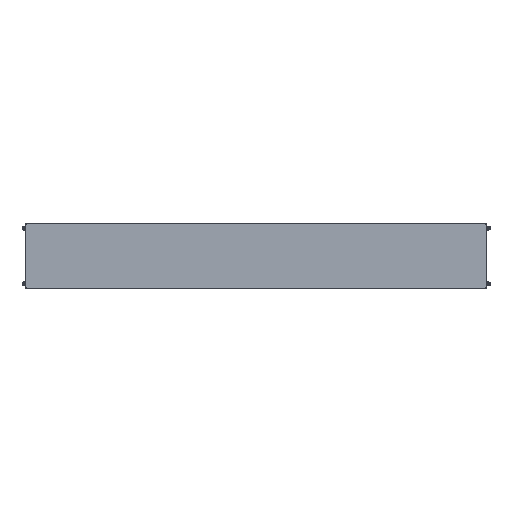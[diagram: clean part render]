
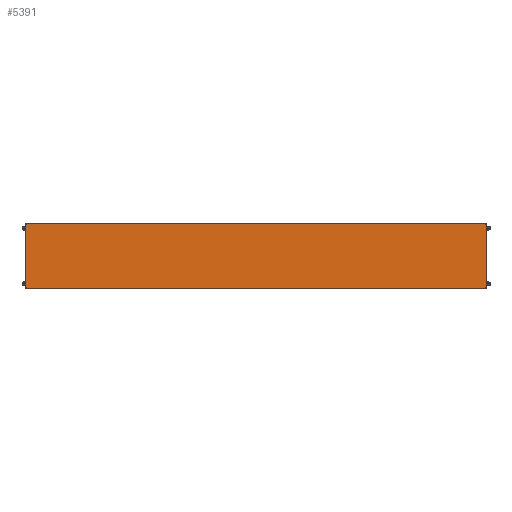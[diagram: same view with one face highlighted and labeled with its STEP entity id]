
A CAD part, top view. The second image highlights one B-rep face of the part: STEP entity #5391.
In plain terms, the highlighted planar face has unit normal (0, 0, 1) as drawn and (0, 0, -1) by its records, which use the part's own axes.
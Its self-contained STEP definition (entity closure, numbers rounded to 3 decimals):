
#4747 = VERTEX_POINT('',#4748);
#4748 = CARTESIAN_POINT('',(707.,-97.9,0.));
#4754 = EDGE_CURVE('',#4747,#4755,#4757,.T.);
#4755 = VERTEX_POINT('',#4756);
#4756 = CARTESIAN_POINT('',(707.,97.9,0.));
#4757 = LINE('',#4758,#4759);
#4758 = CARTESIAN_POINT('',(707.,0.,0.));
#4759 = VECTOR('',#4760,1.);
#4760 = DIRECTION('',(-0.,1.,-0.));
#5280 = VERTEX_POINT('',#5281);
#5281 = CARTESIAN_POINT('',(704.9,-100.,0.));
#5287 = EDGE_CURVE('',#5288,#5280,#5290,.T.);
#5288 = VERTEX_POINT('',#5289);
#5289 = CARTESIAN_POINT('',(704.9,-97.9,0.));
#5290 = LINE('',#5291,#5292);
#5291 = CARTESIAN_POINT('',(704.9,-97.9,0.));
#5292 = VECTOR('',#5293,1.);
#5293 = DIRECTION('',(0.,-1.,0.));
#5391 = ADVANCED_FACE('',(#5392),#5472,.F.);
#5392 = FACE_BOUND('',#5393,.T.);
#5393 = EDGE_LOOP('',(#5394,#5404,#5410,#5411,#5417,#5418,#5426,#5434,
    #5442,#5450,#5458,#5466));
#5394 = ORIENTED_EDGE('',*,*,#5395,.F.);
#5395 = EDGE_CURVE('',#5396,#5398,#5400,.T.);
#5396 = VERTEX_POINT('',#5397);
#5397 = CARTESIAN_POINT('',(704.9,97.9,0.));
#5398 = VERTEX_POINT('',#5399);
#5399 = CARTESIAN_POINT('',(704.9,100.,0.));
#5400 = LINE('',#5401,#5402);
#5401 = CARTESIAN_POINT('',(704.9,0.,0.));
#5402 = VECTOR('',#5403,1.);
#5403 = DIRECTION('',(0.,1.,-0.));
#5404 = ORIENTED_EDGE('',*,*,#5405,.T.);
#5405 = EDGE_CURVE('',#5396,#4755,#5406,.T.);
#5406 = LINE('',#5407,#5408);
#5407 = CARTESIAN_POINT('',(704.9,97.9,0.));
#5408 = VECTOR('',#5409,1.);
#5409 = DIRECTION('',(1.,-0.,-0.));
#5410 = ORIENTED_EDGE('',*,*,#4754,.F.);
#5411 = ORIENTED_EDGE('',*,*,#5412,.F.);
#5412 = EDGE_CURVE('',#5288,#4747,#5413,.T.);
#5413 = LINE('',#5414,#5415);
#5414 = CARTESIAN_POINT('',(0.,-97.9,0.));
#5415 = VECTOR('',#5416,1.);
#5416 = DIRECTION('',(1.,0.,0.));
#5417 = ORIENTED_EDGE('',*,*,#5287,.T.);
#5418 = ORIENTED_EDGE('',*,*,#5419,.F.);
#5419 = EDGE_CURVE('',#5420,#5280,#5422,.T.);
#5420 = VERTEX_POINT('',#5421);
#5421 = CARTESIAN_POINT('',(-704.9,-100.,0.));
#5422 = LINE('',#5423,#5424);
#5423 = CARTESIAN_POINT('',(-0.,-100.,0.));
#5424 = VECTOR('',#5425,1.);
#5425 = DIRECTION('',(1.,-0.,-0.));
#5426 = ORIENTED_EDGE('',*,*,#5427,.F.);
#5427 = EDGE_CURVE('',#5428,#5420,#5430,.T.);
#5428 = VERTEX_POINT('',#5429);
#5429 = CARTESIAN_POINT('',(-704.9,-97.9,0.));
#5430 = LINE('',#5431,#5432);
#5431 = CARTESIAN_POINT('',(-704.9,0.,0.));
#5432 = VECTOR('',#5433,1.);
#5433 = DIRECTION('',(0.,-1.,0.));
#5434 = ORIENTED_EDGE('',*,*,#5435,.T.);
#5435 = EDGE_CURVE('',#5428,#5436,#5438,.T.);
#5436 = VERTEX_POINT('',#5437);
#5437 = CARTESIAN_POINT('',(-707.,-97.9,0.));
#5438 = LINE('',#5439,#5440);
#5439 = CARTESIAN_POINT('',(-704.9,-97.9,0.));
#5440 = VECTOR('',#5441,1.);
#5441 = DIRECTION('',(-1.,-0.,-0.));
#5442 = ORIENTED_EDGE('',*,*,#5443,.F.);
#5443 = EDGE_CURVE('',#5444,#5436,#5446,.T.);
#5444 = VERTEX_POINT('',#5445);
#5445 = CARTESIAN_POINT('',(-707.,97.9,0.));
#5446 = LINE('',#5447,#5448);
#5447 = CARTESIAN_POINT('',(-707.,0.,0.));
#5448 = VECTOR('',#5449,1.);
#5449 = DIRECTION('',(-0.,-1.,0.));
#5450 = ORIENTED_EDGE('',*,*,#5451,.F.);
#5451 = EDGE_CURVE('',#5452,#5444,#5454,.T.);
#5452 = VERTEX_POINT('',#5453);
#5453 = CARTESIAN_POINT('',(-704.9,97.9,0.));
#5454 = LINE('',#5455,#5456);
#5455 = CARTESIAN_POINT('',(-0.,97.9,0.));
#5456 = VECTOR('',#5457,1.);
#5457 = DIRECTION('',(-1.,-0.,0.));
#5458 = ORIENTED_EDGE('',*,*,#5459,.T.);
#5459 = EDGE_CURVE('',#5452,#5460,#5462,.T.);
#5460 = VERTEX_POINT('',#5461);
#5461 = CARTESIAN_POINT('',(-704.9,100.,0.));
#5462 = LINE('',#5463,#5464);
#5463 = CARTESIAN_POINT('',(-704.9,97.9,0.));
#5464 = VECTOR('',#5465,1.);
#5465 = DIRECTION('',(0.,1.,0.));
#5466 = ORIENTED_EDGE('',*,*,#5467,.T.);
#5467 = EDGE_CURVE('',#5460,#5398,#5468,.T.);
#5468 = LINE('',#5469,#5470);
#5469 = CARTESIAN_POINT('',(0.,100.,0.));
#5470 = VECTOR('',#5471,1.);
#5471 = DIRECTION('',(1.,-0.,-0.));
#5472 = PLANE('',#5473);
#5473 = AXIS2_PLACEMENT_3D('',#5474,#5475,#5476);
#5474 = CARTESIAN_POINT('',(0.,0.,0.));
#5475 = DIRECTION('',(-0.,0.,1.));
#5476 = DIRECTION('',(1.,0.,0.));
